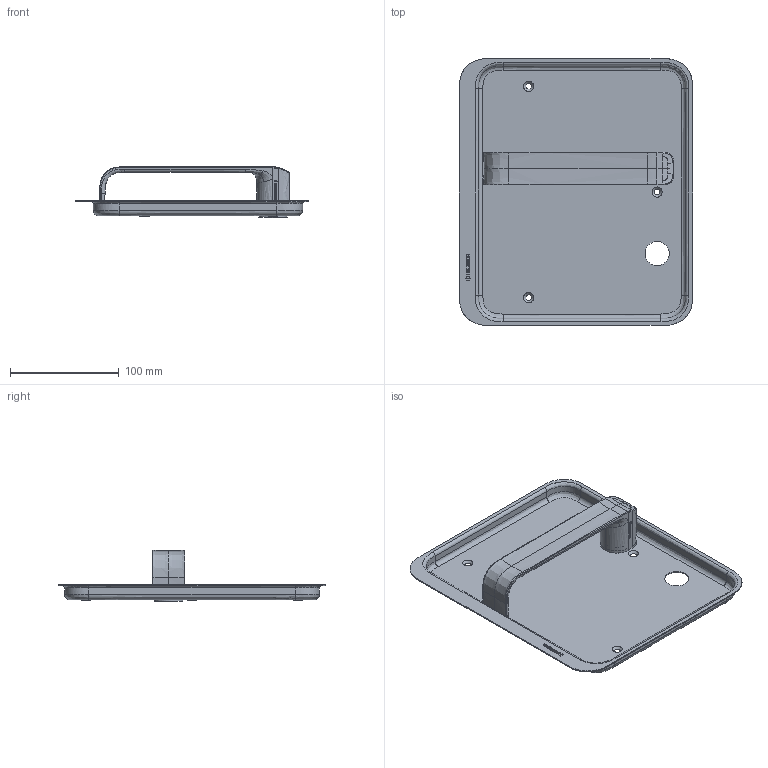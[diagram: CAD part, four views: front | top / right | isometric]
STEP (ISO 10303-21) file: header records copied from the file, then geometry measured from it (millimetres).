
FILE_DESCRIPTION(/* description */ (''),/* implementation_level */ '2;1');
FILE_NAME(/* name */ 'M:\LOC Heusser-Muscheln\Muschel Serie 9\Muschel Serie 9 EN179\S9.13.D4 Links\Heusser-Muschel S9.13.D4.278L.stp',/* time_stamp */ '2020-10-08T10:10:56+02:00',/* author */ ('gm'),/* organization */ (''),/* preprocessor_version */ 'ST-DEVELOPER v16.5',/* originating_system */ 'Autodesk Inventor 2017',/* authorisation */ '');
FILE_SCHEMA (('AUTOMOTIVE_DESIGN { 1 0 10303 214 3 1 1 }'));
Length unit declared in the file: millimetre
Products named in the file (1): S9.13.D4.0L
Bounding box: 214 x 245 x 47.34 mm (x, y, z)
Volume: 112692.1 mm3; surface area: 141496.5 mm2
Topology: 1 solids, 2 shells, 600 faces, 1586 edges, 1034 vertices
Faces by surface type: plane 290, bspline 267, cylinder 25, cone 18
Full cylindrical faces by diameter (mm): 1.7 x2, 4.917 x1, 14.2 x1, 16 x3, 18 x1, 19 x1, 19.1 x1, 22.3 x1, 23 x1, 23.2 x1, 24 x1, 25 x1, 26 x1, 28 x1, 28.6 x1
Entity records: 29549 total; most frequent: CARTESIAN_POINT 15845, ORIENTED_EDGE 3082, DIRECTION 1897, EDGE_CURVE 1541, VERTEX_POINT 1025, LINE 883, VECTOR 883, EDGE_LOOP 698
